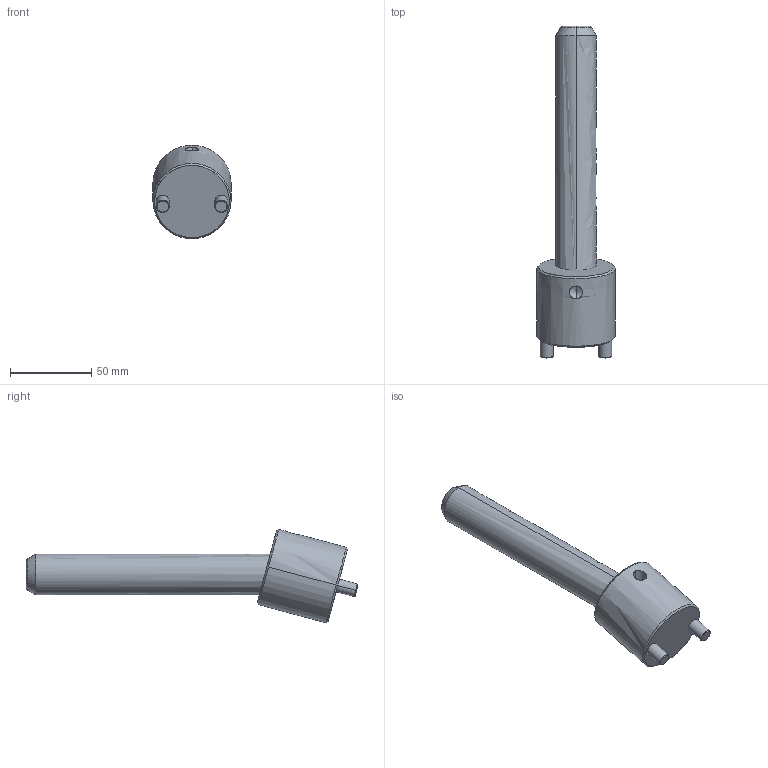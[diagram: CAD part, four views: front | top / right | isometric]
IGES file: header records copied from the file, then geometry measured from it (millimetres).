
Start section: START RECORD GO HERE.
Global section: file name: CI1525150.igs; native system: DASSAULT SYSTEMES CATIA V5 R20 - www.3ds.com; preprocessor: CATIA Version 5 Release 20 ; author: r.borello; organization: CFTORINO; date: 20190621.162012; units: millimetre
Bounding box: 48 x 204.26 x 57.49 mm (x, y, z)
Surface area: 29348.2 mm2 (no closed solid volume)
Topology: 0 solids, 0 shells, 39 faces, 162 edges, 160 vertices
Faces by surface type: revolution 32, plane 7
